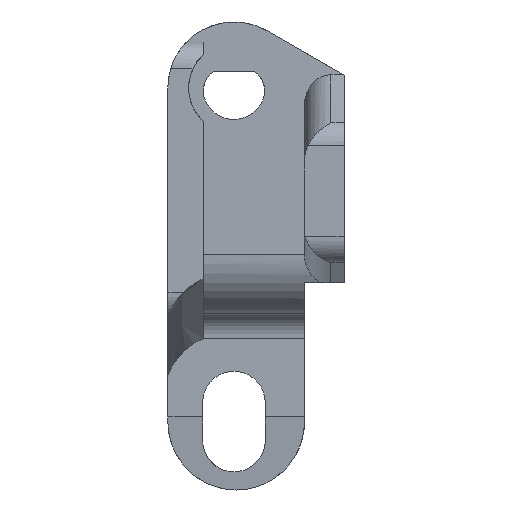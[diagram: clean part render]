
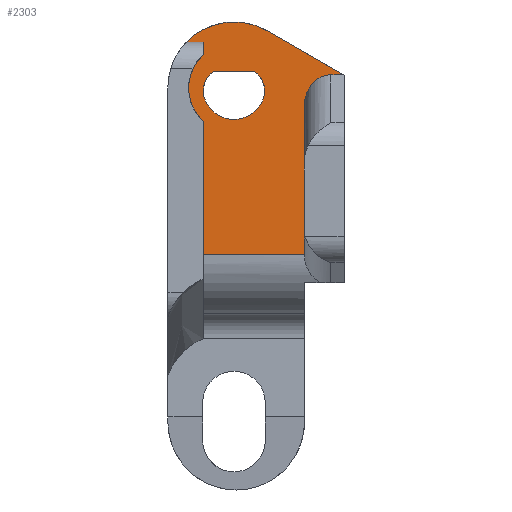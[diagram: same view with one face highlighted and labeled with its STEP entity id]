
A CAD part, left-side view. The second image highlights one B-rep face of the part: STEP entity #2303.
In plain terms, the highlighted planar face has unit normal (-1, 0, 0).
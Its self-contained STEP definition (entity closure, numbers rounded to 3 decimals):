
#48 = DIRECTION ( 'NONE',  ( 0., 0., -1. ) ) ;
#49 = VECTOR ( 'NONE', #48, 1000. ) ;
#50 = CARTESIAN_POINT ( 'NONE',  ( -19.842, -4., 53.1 ) ) ;
#51 = LINE ( 'NONE', #50, #49 ) ;
#423 = LINE ( 'NONE', #429, #427 ) ;
#427 = VECTOR ( 'NONE', #434, 1000. ) ;
#428 = CARTESIAN_POINT ( 'NONE',  ( -19.842, -18.5, 47.1 ) ) ;
#429 = CARTESIAN_POINT ( 'NONE',  ( -19.842, -4., 50.82 ) ) ;
#434 = DIRECTION ( 'NONE',  ( 0., 1., 0. ) ) ;
#447 = DIRECTION ( 'NONE',  ( 0., 1., 0. ) ) ;
#448 = VECTOR ( 'NONE', #447, 1000. ) ;
#452 = LINE ( 'NONE', #540, #539 ) ;
#453 = CARTESIAN_POINT ( 'NONE',  ( -19.842, -15.5, 26.764 ) ) ;
#456 = CARTESIAN_POINT ( 'NONE',  ( -19.842, -19.902, 47.1 ) ) ;
#498 = CARTESIAN_POINT ( 'NONE',  ( -19.842, -18.5, 47.1 ) ) ;
#499 = CARTESIAN_POINT ( 'NONE',  ( -19.842, -16.743, 47.1 ) ) ;
#500 = CARTESIAN_POINT ( 'NONE',  ( -19.842, -15.5, 45.665 ) ) ;
#501 = CARTESIAN_POINT ( 'NONE',  ( -19.842, -15.5, 43.636 ) ) ;
#502 =( BOUNDED_CURVE ( )  B_SPLINE_CURVE ( 3, ( #501, #500, #499, #498 ),
 .UNSPECIFIED., .F., .T. ) 
 B_SPLINE_CURVE_WITH_KNOTS ( ( 4, 4 ),
 ( 1.571, 3.142 ),
 .UNSPECIFIED. ) 
 CURVE ( )  GEOMETRIC_REPRESENTATION_ITEM ( )  RATIONAL_B_SPLINE_CURVE ( ( 1., 0.805, 0.805, 1. ) ) 
 REPRESENTATION_ITEM ( '' )  );
#503 = DIRECTION ( 'NONE',  ( 0., 0., -1. ) ) ;
#504 = VECTOR ( 'NONE', #503, 1000. ) ;
#508 = LINE ( 'NONE', #510, #504 ) ;
#510 = CARTESIAN_POINT ( 'NONE',  ( -19.842, -15.5, 53.1 ) ) ;
#520 = CARTESIAN_POINT ( 'NONE',  ( -19.842, -7.5, 45.6 ) ) ;
#523 = CIRCLE ( 'NONE', #531, 5.15 ) ;
#529 = DIRECTION ( 'NONE',  ( 0., 0., -1. ) ) ;
#530 = DIRECTION ( 'NONE',  ( 1., 0., 0. ) ) ;
#531 = AXIS2_PLACEMENT_3D ( 'NONE', #520, #530, #529 ) ;
#532 = DIRECTION ( 'NONE',  ( 0., -0.866, -0.5 ) ) ;
#533 = VECTOR ( 'NONE', #532, 1000. ) ;
#534 = CARTESIAN_POINT ( 'NONE',  ( -19.842, -6.365, 54.916 ) ) ;
#535 = LINE ( 'NONE', #534, #533 ) ;
#538 = DIRECTION ( 'NONE',  ( 0., 1., 0. ) ) ;
#539 = VECTOR ( 'NONE', #538, 1000. ) ;
#540 = CARTESIAN_POINT ( 'NONE',  ( -19.842, -15.5, 26.764 ) ) ;
#542 = CARTESIAN_POINT ( 'NONE',  ( -19.842, -15.5, 43.636 ) ) ;
#544 = CARTESIAN_POINT ( 'NONE',  ( -19.842, -20., 47.1 ) ) ;
#545 = LINE ( 'NONE', #544, #448 ) ;
#764 = VERTEX_POINT ( 'NONE', #1165 ) ;
#814 = VERTEX_POINT ( 'NONE', #1713 ) ;
#817 = VERTEX_POINT ( 'NONE', #1725 ) ;
#821 = EDGE_CURVE ( 'NONE', #764, #814, #1683, .T. ) ;
#1165 = CARTESIAN_POINT ( 'NONE',  ( -19.842, -2.115, 50.82 ) ) ;
#1422 = CARTESIAN_POINT ( 'NONE',  ( -19.842, -4., 49.378 ) ) ;
#1464 = CARTESIAN_POINT ( 'NONE',  ( -19.842, -4., 50.82 ) ) ;
#1503 = DIRECTION ( 'NONE',  ( 0., 0., -1. ) ) ;
#1504 = VECTOR ( 'NONE', #1503, 1000. ) ;
#1505 = CARTESIAN_POINT ( 'NONE',  ( -19.842, -4., 53.1 ) ) ;
#1506 = LINE ( 'NONE', #1505, #1504 ) ;
#1674 = DIRECTION ( 'NONE',  ( 0., 0., 1. ) ) ;
#1675 = DIRECTION ( 'NONE',  ( 1., 0., 0. ) ) ;
#1682 = AXIS2_PLACEMENT_3D ( 'NONE', #1709, #1675, #1674 ) ;
#1683 = CIRCLE ( 'NONE', #1682, 7.5 ) ;
#1709 = CARTESIAN_POINT ( 'NONE',  ( -19.842, -7.5, 45.6 ) ) ;
#1713 = CARTESIAN_POINT ( 'NONE',  ( -19.842, -11.25, 52.095 ) ) ;
#1725 = CARTESIAN_POINT ( 'NONE',  ( -19.842, -4., 41.822 ) ) ;
#2104 = EDGE_CURVE ( 'NONE', #2114, #2178, #1506, .T. ) ;
#2114 = VERTEX_POINT ( 'NONE', #1464 ) ;
#2178 = VERTEX_POINT ( 'NONE', #1422 ) ;
#2254 = EDGE_LOOP ( 'NONE', ( #2334, #2277, #2389, #2403, #2402, #2362, #2359, #2378, #2360, #2357 ) ) ;
#2255 = VERTEX_POINT ( 'NONE', #2698 ) ;
#2268 = EDGE_CURVE ( 'NONE', #3021, #2304, #2893, .T. ) ;
#2269 = ORIENTED_EDGE ( 'NONE', *, *, #2292, .F. ) ;
#2274 = EDGE_LOOP ( 'NONE', ( #2291, #2269, #2323, #2302, #2294 ) ) ;
#2277 = ORIENTED_EDGE ( 'NONE', *, *, #2397, .F. ) ;
#2291 = ORIENTED_EDGE ( 'NONE', *, *, #2293, .F. ) ;
#2292 = EDGE_CURVE ( 'NONE', #2255, #2308, #2824, .T. ) ;
#2293 = EDGE_CURVE ( 'NONE', #2308, #2994, #2842, .T. ) ;
#2294 = ORIENTED_EDGE ( 'NONE', *, *, #3013, .F. ) ;
#2302 = ORIENTED_EDGE ( 'NONE', *, *, #2268, .F. ) ;
#2303 = ADVANCED_FACE ( 'NONE', ( #2818, #2810 ), #2817, .T. ) ;
#2304 = VERTEX_POINT ( 'NONE', #2880 ) ;
#2308 = VERTEX_POINT ( 'NONE', #2632 ) ;
#2323 = ORIENTED_EDGE ( 'NONE', *, *, #2335, .F. ) ;
#2334 = ORIENTED_EDGE ( 'NONE', *, *, #2104, .T. ) ;
#2335 = EDGE_CURVE ( 'NONE', #2304, #2255, #2645, .T. ) ;
#2357 = ORIENTED_EDGE ( 'NONE', *, *, #2376, .F. ) ;
#2359 = ORIENTED_EDGE ( 'NONE', *, *, #2363, .F. ) ;
#2360 = ORIENTED_EDGE ( 'NONE', *, *, #821, .F. ) ;
#2362 = ORIENTED_EDGE ( 'NONE', *, *, #2405, .T. ) ;
#2363 = EDGE_CURVE ( 'NONE', #2390, #2391, #545, .T. ) ;
#2376 = EDGE_CURVE ( 'NONE', #2114, #764, #423, .T. ) ;
#2378 = ORIENTED_EDGE ( 'NONE', *, *, #2394, .F. ) ;
#2389 = ORIENTED_EDGE ( 'NONE', *, *, #2612, .T. ) ;
#2390 = VERTEX_POINT ( 'NONE', #456 ) ;
#2391 = VERTEX_POINT ( 'NONE', #428 ) ;
#2392 = EDGE_CURVE ( 'NONE', #2393, #2615, #452, .T. ) ;
#2393 = VERTEX_POINT ( 'NONE', #453 ) ;
#2394 = EDGE_CURVE ( 'NONE', #814, #2390, #535, .T. ) ;
#2397 = EDGE_CURVE ( 'NONE', #817, #2178, #523, .T. ) ;
#2398 = VERTEX_POINT ( 'NONE', #542 ) ;
#2402 = ORIENTED_EDGE ( 'NONE', *, *, #2404, .F. ) ;
#2403 = ORIENTED_EDGE ( 'NONE', *, *, #2392, .F. ) ;
#2404 = EDGE_CURVE ( 'NONE', #2398, #2393, #508, .T. ) ;
#2405 = EDGE_CURVE ( 'NONE', #2398, #2391, #502, .T. ) ;
#2612 = EDGE_CURVE ( 'NONE', #817, #2615, #51, .T. ) ;
#2615 = VERTEX_POINT ( 'NONE', #3358 ) ;
#2620 = DIRECTION ( 'NONE',  ( 0., 0., 1. ) ) ;
#2621 = DIRECTION ( 'NONE',  ( -1., 0., 0. ) ) ;
#2622 = CARTESIAN_POINT ( 'NONE',  ( -19.842, -8.18, 45.283 ) ) ;
#2632 = CARTESIAN_POINT ( 'NONE',  ( -19.842, -5.136, 47.52 ) ) ;
#2637 = AXIS2_PLACEMENT_3D ( 'NONE', #2622, #2621, #2620 ) ;
#2645 = CIRCLE ( 'NONE', #2637, 2.8 ) ;
#2698 = CARTESIAN_POINT ( 'NONE',  ( -19.842, -9.864, 47.52 ) ) ;
#2807 = AXIS2_PLACEMENT_3D ( 'NONE', #2814, #2809, #2877 ) ;
#2809 = DIRECTION ( 'NONE',  ( -1., 0., 0. ) ) ;
#2810 = FACE_OUTER_BOUND ( 'NONE', #2254, .T. ) ;
#2811 = DIRECTION ( 'NONE',  ( 0., 0., 1. ) ) ;
#2812 = DIRECTION ( 'NONE',  ( -1., 0., 0. ) ) ;
#2813 = CARTESIAN_POINT ( 'NONE',  ( -19.842, -6.82, 45.283 ) ) ;
#2814 = CARTESIAN_POINT ( 'NONE',  ( -19.842, -4., 50.82 ) ) ;
#2816 = DIRECTION ( 'NONE',  ( 0., 1., 0. ) ) ;
#2817 = PLANE ( 'NONE',  #2807 ) ;
#2818 = FACE_BOUND ( 'NONE', #2274, .T. ) ;
#2821 = AXIS2_PLACEMENT_3D ( 'NONE', #2813, #2812, #2811 ) ;
#2823 = CARTESIAN_POINT ( 'NONE',  ( -19.842, -4., 47.52 ) ) ;
#2824 = LINE ( 'NONE', #2823, #2825 ) ;
#2825 = VECTOR ( 'NONE', #2816, 1000. ) ;
#2836 = DIRECTION ( 'NONE',  ( 0., 0., 1. ) ) ;
#2837 = DIRECTION ( 'NONE',  ( -1., 0., 0. ) ) ;
#2842 = CIRCLE ( 'NONE', #2821, 2.8 ) ;
#2874 = AXIS2_PLACEMENT_3D ( 'NONE', #2891, #2837, #2836 ) ;
#2877 = DIRECTION ( 'NONE',  ( 0., 0., 1. ) ) ;
#2880 = CARTESIAN_POINT ( 'NONE',  ( -19.842, -10.717, 44.1 ) ) ;
#2891 = CARTESIAN_POINT ( 'NONE',  ( -19.842, -7.5, 45.6 ) ) ;
#2893 = CIRCLE ( 'NONE', #2874, 3.55 ) ;
#2994 = VERTEX_POINT ( 'NONE', #3244 ) ;
#3013 = EDGE_CURVE ( 'NONE', #2994, #3021, #3295, .T. ) ;
#3021 = VERTEX_POINT ( 'NONE', #3290 ) ;
#3244 = CARTESIAN_POINT ( 'NONE',  ( -19.842, -4.283, 44.1 ) ) ;
#3290 = CARTESIAN_POINT ( 'NONE',  ( -19.842, -7.5, 42.05 ) ) ;
#3291 = DIRECTION ( 'NONE',  ( 0., 0., 1. ) ) ;
#3292 = DIRECTION ( 'NONE',  ( -1., 0., 0. ) ) ;
#3293 = CARTESIAN_POINT ( 'NONE',  ( -19.842, -7.5, 45.6 ) ) ;
#3294 = AXIS2_PLACEMENT_3D ( 'NONE', #3293, #3292, #3291 ) ;
#3295 = CIRCLE ( 'NONE', #3294, 3.55 ) ;
#3358 = CARTESIAN_POINT ( 'NONE',  ( -19.842, -4., 26.764 ) ) ;
